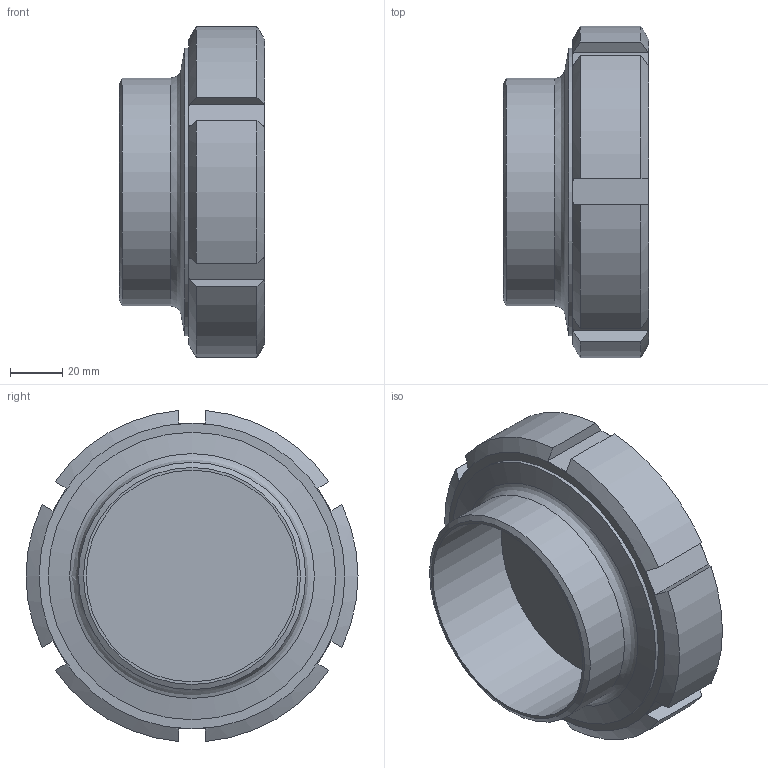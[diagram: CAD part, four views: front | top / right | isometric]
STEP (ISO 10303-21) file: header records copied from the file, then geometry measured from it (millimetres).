
FILE_DESCRIPTION((''),'2;1');
FILE_NAME('V:\Výkresy (KATALOG + NÁVODY)\3D-pdf\5xxxx\step\51510\5151-080 Průhledítko maticové.stp','2018-08-28T11:10:41',('fonai'),(''),'Autodesk Inventor 2010','Autodesk Inventor 2010','');
FILE_SCHEMA(('AUTOMOTIVE_DESIGN { 1 0 10303 214 1 1 1 1 }'));
Length unit declared in the file: millimetre
Products named in the file (6): 5151-080 Průhledítko maticové; 51512-ZH-080; 5152-080- Sklo pro maticové průhledítko; 51511-080-Vložka pro maticové průhledítko; 20030-080-Z-Matice převlečná se zápichem; 20040-080-Těsnění
Assembly tree (5 placements, depth 2):
  5151-080 Průhledítko maticové
    51512-ZH-080
    5152-080- Sklo pro maticové průhledítko
    51511-080-Vložka pro maticové průhledítko
    20030-080-Z-Matice převlečná se zápichem
    20040-080-Těsnění
Bounding box: 55.5 x 127 x 126.61 mm (x, y, z)
Volume: 292102.7 mm3; surface area: 100243.9 mm2
Topology: 5 solids, 5 shells, 72 faces, 152 edges, 94 vertices
Faces by surface type: plane 32, cylinder 21, cone 17, bspline 1, torus 1
Full cylindrical faces by diameter (mm): 81 x2, 85 x2, 87 x1, 93 x1, 94 x1, 94.8 x1, 95 x1, 99 x2, 100 x1, 107 x1, 110 x2
Entity records: 2009 total; most frequent: CARTESIAN_POINT 447, DIRECTION 304, ORIENTED_EDGE 260, AXIS2_PLACEMENT_3D 140, EDGE_CURVE 130, EDGE_LOOP 106, VERTEX_POINT 94, FACE_OUTER_BOUND 72
